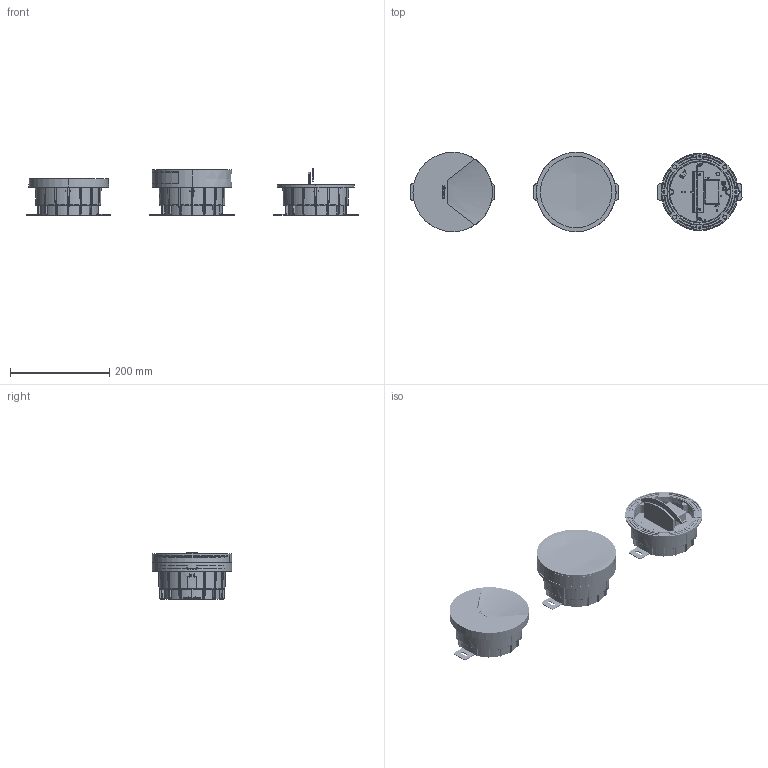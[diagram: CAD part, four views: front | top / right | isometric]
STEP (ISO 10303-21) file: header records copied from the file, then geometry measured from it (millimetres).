
FILE_DESCRIPTION((''),'2;1');
FILE_NAME('1LY-1LX-1HU_ASM','2024-10-25T',('Administrator'),(''),'CREO PARAMETRIC BY PTC INC, 2015200','CREO PARAMETRIC BY PTC INC, 2015200','');
FILE_SCHEMA(('CONFIG_CONTROL_DESIGN'));
Length unit declared in the file: millimetre
Products named in the file (33): 7CW16_F_ANY-10233_7_1; 7CW16_F_ANY-5719_ASM_7_ASM_1_ASM; 160-DT_15_1; 7CW16_B_F_ANY_ASM_8_ASM_1_ASM; 7CW16_7CW0516_F_ANY_ASM_9_ASM_1_ASM; SCREW-M12_1_18_1; XINGUIJIAO_14_1; GUIJIAOSAI-005_8_1; LUOMUZUJIAN_ASM_14_ASM_1_ASM; M14__ASM_1_ASM; 1CW0516_ANY_ASM_7_ASM_1_ASM; 7CW16_FL_ANY_7_1; 7CW16_KAHUANG_ANY_7_1; 7LY-160QUDONG_1; SANREBAN-01_11_2; GYBAN_11_1; 1LYFANGSHUIQUAN_1; 1CA_1; 160-09__2; 7LY-KUOSANPIAN_1; D1LY1234_ASM; 160-13__1; 7CW1316_P_ANY_1; 7CW-160-1GYBJZ_1; 7HU__1; D1HU1234_ASM; 7CW-160-12JIZA_1; 7CW-160-12GYB_1; 7LX-MIANGAI_1; 7CW1216_P_ANY_1; D1LX1234_ASM; 123_ASM_2_ASM; 1LY-1LX-1HU_ASM
Assembly tree (56 placements, depth 7):
  1LY-1LX-1HU_ASM
    123_ASM_2_ASM
      D1LY1234_ASM
        1CW0516_ANY_ASM_7_ASM_1_ASM
          7CW16_7CW0516_F_ANY_ASM_9_ASM_1_ASM
            7CW16_F_ANY-5719_ASM_7_ASM_1_ASM
              7CW16_F_ANY-10233_7_1
            7CW16_B_F_ANY_ASM_8_ASM_1_ASM
              160-DT_15_1
          M14__ASM_1_ASM
            LUOMUZUJIAN_ASM_14_ASM_1_ASM
              SCREW-M12_1_18_1
              XINGUIJIAO_14_1
              GUIJIAOSAI-005_8_1
        7CW16_FL_ANY_7_1
        M14__ASM_1_ASM
          LUOMUZUJIAN_ASM_14_ASM_1_ASM
            SCREW-M12_1_18_1
            XINGUIJIAO_14_1
            GUIJIAOSAI-005_8_1
        7CW16_KAHUANG_ANY_7_1  x4
        7LY-160QUDONG_1
        SANREBAN-01_11_2
        GYBAN_11_1
        1LYFANGSHUIQUAN_1
        1CA_1
        160-09__2
        7LY-KUOSANPIAN_1
      D1HU1234_ASM
        160-DT_15_1
        160-13__1
        7CW16_F_ANY-10233_7_1
        7CW16_FL_ANY_7_1
        7CW1316_P_ANY_1
        M14__ASM_1_ASM
          LUOMUZUJIAN_ASM_14_ASM_1_ASM
            SCREW-M12_1_18_1
            XINGUIJIAO_14_1
            GUIJIAOSAI-005_8_1
        7CW16_KAHUANG_ANY_7_1  x4
        7CW-160-1GYBJZ_1
        GYBAN_11_1
        7LY-160QUDONG_1
        7HU__1
      D1LX1234_ASM
        160-DT_15_1
        M14__ASM_1_ASM
          LUOMUZUJIAN_ASM_14_ASM_1_ASM
            SCREW-M12_1_18_1
            XINGUIJIAO_14_1
            GUIJIAOSAI-005_8_1
        7CW16_KAHUANG_ANY_7_1  x4
        7CW16_F_ANY-10233_7_1
        7CW16_FL_ANY_7_1
        7CW-160-12JIZA_1
        7CW-160-12GYB_1
        7LX-MIANGAI_1
        1CA_1
        7CW1216_P_ANY_1
        1LYFANGSHUIQUAN_1
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Bounding box: 667.63 x 160 x 94.3 mm (x, y, z)
Volume: 1069245.3 mm3; surface area: 728923.6 mm2
Topology: 51 solids, 51 shells, 6118 faces, 15469 edges, 9559 vertices
Faces by surface type: cylinder 2043, plane 1847, torus 769, bspline 759, cone 434, sphere 258, extrusion 8
Entity records: 108293 total; most frequent: CARTESIAN_POINT 47830, ORIENTED_EDGE 12696, DIRECTION 12393, EDGE_CURVE 6348, AXIS2_PLACEMENT_3D 4820, VERTEX_POINT 3966, EDGE_LOOP 2788, VECTOR 2753
